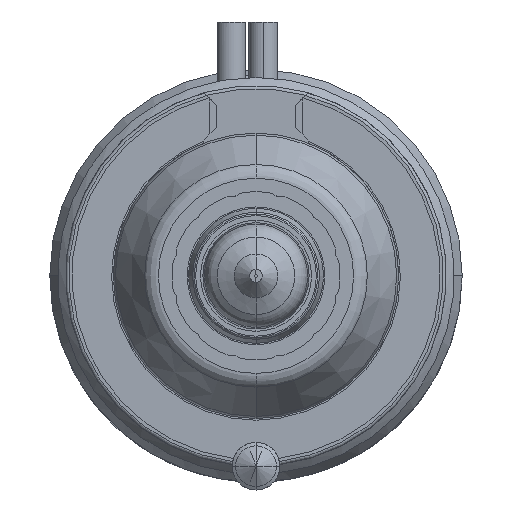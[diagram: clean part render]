
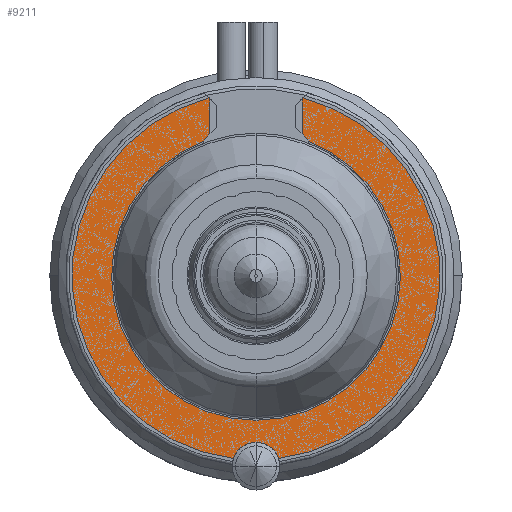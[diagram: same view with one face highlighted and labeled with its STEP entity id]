
A CAD part, front view. The second image highlights one B-rep face of the part: STEP entity #9211.
In plain terms, the highlighted planar face has unit normal (0, -1, 0).
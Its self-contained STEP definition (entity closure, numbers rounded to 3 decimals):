
#596=DIRECTION('',(0.707,0.,-0.707));
#597=VECTOR('',#596,0.092);
#598=CARTESIAN_POINT('',(-2.965,-22.,11.215));
#599=LINE('',#598,#597);
#1555=CARTESIAN_POINT('',(0.,-22.,6.2));
#1556=DIRECTION('',(0.,1.,0.));
#1557=DIRECTION('',(0.725,0.,0.689));
#1558=AXIS2_PLACEMENT_3D('',#1555,#1556,#1557);
#1570=CARTESIAN_POINT('',(0.,-22.,-12.));
#1571=DIRECTION('',(0.,1.,0.));
#1572=DIRECTION('',(-0.946,0.,0.325));
#1573=AXIS2_PLACEMENT_3D('',#1570,#1571,#1572);
#1589=CARTESIAN_POINT('',(0.,-22.,0.));
#1590=DIRECTION('',(0.,1.,0.));
#1591=DIRECTION('',(-0.122,0.,-0.992));
#1592=AXIS2_PLACEMENT_3D('',#1589,#1590,#1591);
#1601=CARTESIAN_POINT('',(0.,-22.,0.));
#1602=DIRECTION('',(0.,1.,0.));
#1603=DIRECTION('',(0.256,0.,0.967));
#1604=AXIS2_PLACEMENT_3D('',#1601,#1602,#1603);
#1617=DIRECTION('',(-0.707,0.,-0.707));
#1618=VECTOR('',#1617,0.092);
#1619=CARTESIAN_POINT('',(2.965,-22.,11.215));
#1620=LINE('',#1619,#1618);
#1625=DIRECTION('',(0.,0.,-1.));
#1626=VECTOR('',#1625,2.195);
#1627=CARTESIAN_POINT('',(2.9,-22.,11.15));
#1628=LINE('',#1627,#1626);
#1656=DIRECTION('',(0.,0.,1.));
#1657=VECTOR('',#1656,2.195);
#1658=CARTESIAN_POINT('',(-2.9,-22.,8.955));
#1659=LINE('',#1658,#1657);
#1691=CARTESIAN_POINT('',(0.,-22.,6.2));
#1692=DIRECTION('',(0.,1.,0.));
#1693=DIRECTION('',(-0.82,0.,0.572));
#1694=AXIS2_PLACEMENT_3D('',#1691,#1692,#1693);
#1706=CARTESIAN_POINT('',(0.,-22.,0.));
#1707=DIRECTION('',(0.,-1.,0.));
#1708=DIRECTION('',(-0.361,0.,0.933));
#1709=AXIS2_PLACEMENT_3D('',#1706,#1707,#1708);
#7399=CARTESIAN_POINT('',(2.965,-22.,11.215));
#7400=CARTESIAN_POINT('',(2.9,-22.,11.15));
#7401=VERTEX_POINT('',#7399);
#7402=VERTEX_POINT('',#7400);
#7407=CARTESIAN_POINT('',(-2.965,-22.,11.215));
#7408=CARTESIAN_POINT('',(-2.9,-22.,11.15));
#7409=VERTEX_POINT('',#7407);
#7410=VERTEX_POINT('',#7408);
#7445=CARTESIAN_POINT('',(2.9,-22.,8.955));
#7446=CARTESIAN_POINT('',(3.281,-22.,8.488));
#7447=VERTEX_POINT('',#7445);
#7448=VERTEX_POINT('',#7446);
#7449=CARTESIAN_POINT('',(-3.281,-22.,8.488));
#7450=CARTESIAN_POINT('',(-2.9,-22.,8.955));
#7451=VERTEX_POINT('',#7449);
#7452=VERTEX_POINT('',#7450);
#7594=CARTESIAN_POINT('',(-1.419,-22.,-11.513));
#7595=CARTESIAN_POINT('',(1.419,-22.,-11.513));
#7596=VERTEX_POINT('',#7594);
#7597=VERTEX_POINT('',#7595);
#9187=CARTESIAN_POINT('',(0.,-22.,0.));
#9188=DIRECTION('',(0.,-1.,0.));
#9189=DIRECTION('',(-1.,0.,0.));
#9190=AXIS2_PLACEMENT_3D('',#9187,#9188,#9189);
#9191=PLANE('',#9190);
#9192=ORIENTED_EDGE('',*,*,#8674,.F.);
#9194=ORIENTED_EDGE('',*,*,#9193,.T.);
#9195=ORIENTED_EDGE('',*,*,#8794,.T.);
#9197=ORIENTED_EDGE('',*,*,#9196,.F.);
#9199=ORIENTED_EDGE('',*,*,#9198,.F.);
#9201=ORIENTED_EDGE('',*,*,#9200,.T.);
#9202=ORIENTED_EDGE('',*,*,#9166,.F.);
#9204=ORIENTED_EDGE('',*,*,#9203,.F.);
#9206=ORIENTED_EDGE('',*,*,#9205,.F.);
#9208=ORIENTED_EDGE('',*,*,#9207,.T.);
#9209=EDGE_LOOP('',(#9192,#9194,#9195,#9197,#9199,#9201,#9202,#9204,#9206,
#9208));
#9210=FACE_OUTER_BOUND('',#9209,.F.);
#9211=ADVANCED_FACE('',(#9210),#9191,.T.);
#1559=CIRCLE('',#1558,4.);
#1574=CIRCLE('',#1573,1.5);
#1593=CIRCLE('',#1592,11.6);
#1605=CIRCLE('',#1604,11.6);
#1695=CIRCLE('',#1694,4.);
#1710=CIRCLE('',#1709,9.1);
#8674=EDGE_CURVE('',#7596,#7597,#1574,.T.);
#8794=EDGE_CURVE('',#7409,#7410,#599,.T.);
#9166=EDGE_CURVE('',#7447,#7448,#1559,.T.);
#9193=EDGE_CURVE('',#7596,#7409,#1593,.T.);
#9196=EDGE_CURVE('',#7452,#7410,#1659,.T.);
#9198=EDGE_CURVE('',#7451,#7452,#1695,.T.);
#9200=EDGE_CURVE('',#7451,#7448,#1710,.T.);
#9203=EDGE_CURVE('',#7402,#7447,#1628,.T.);
#9205=EDGE_CURVE('',#7401,#7402,#1620,.T.);
#9207=EDGE_CURVE('',#7401,#7597,#1605,.T.);
